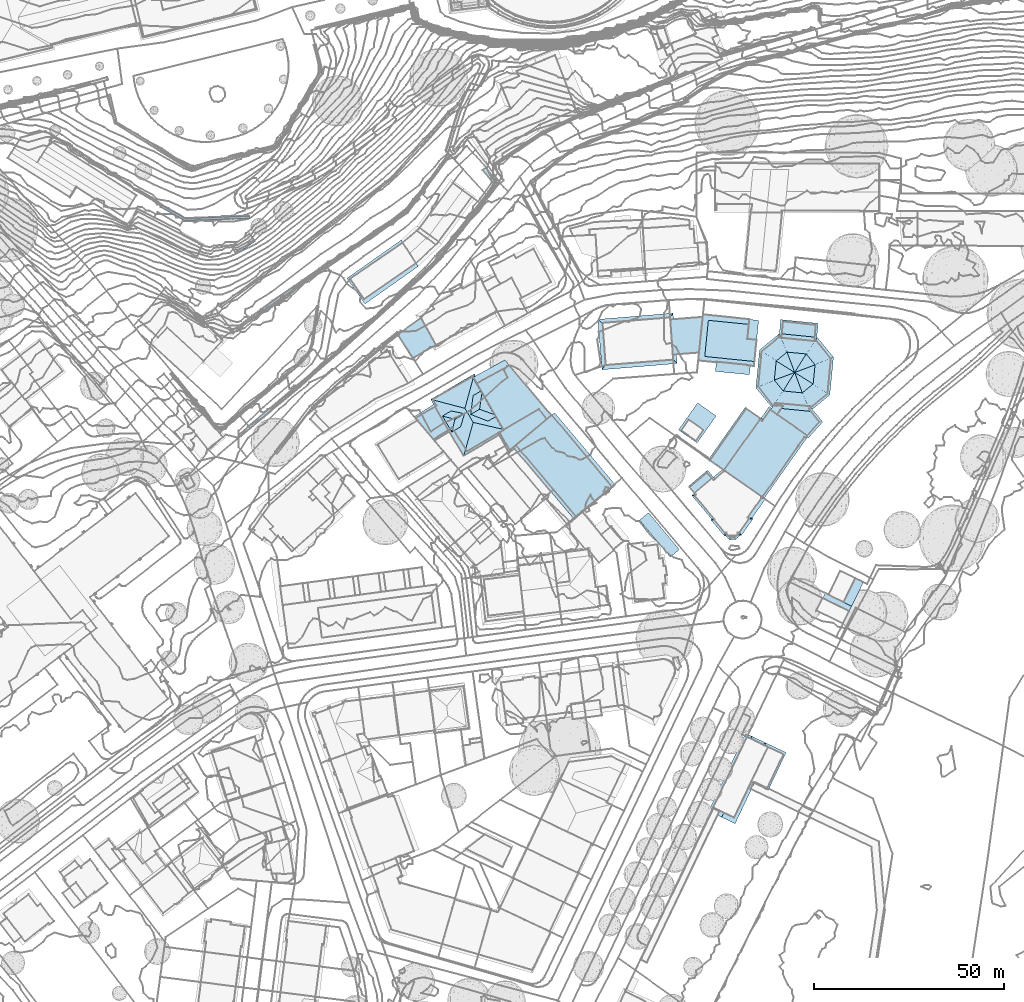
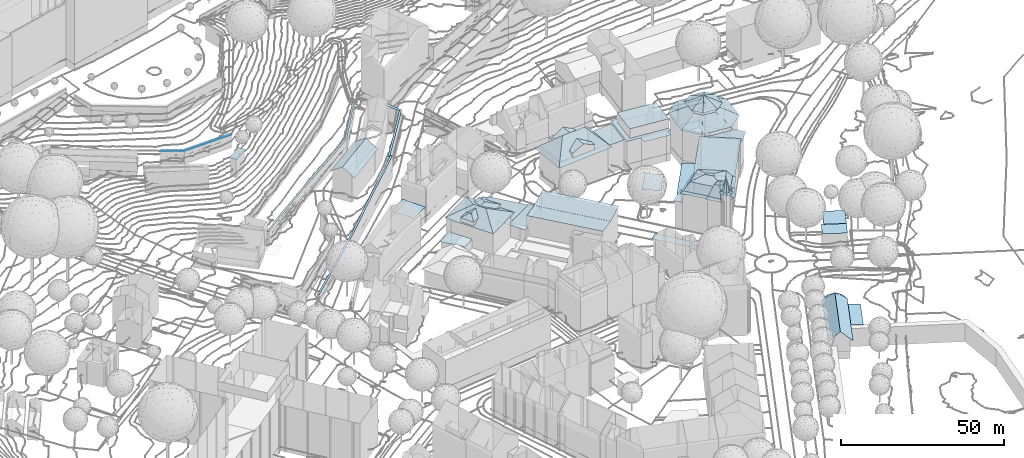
# Not in any storey, part 81 of 477: 30 roofs.
"""IFC4 building model written with IfcOpenShell, lengths in metres."""

import ifcopenshell
import ifcopenshell.guid

model = None  # the IFC model being written
_history = None  # IfcOwnerHistory: only IFC2X3 demands one
_inside = {}  # id of a spatial element -> (the spatial element, [elements in it])
_under = {}  # id of a project, library or spatial element -> (it, [spatial elements below it])
_declared = {}  # id of a project -> (the project, [libraries it declares])
_typed = {}  # id of a type object -> (the type object, [elements of that type])
_made_of = {}  # id of a material, layer set ... -> (it, [elements and type objects made of it])


def new_model(schema):
    """Start an empty IFC model of exactly this schema.

    Asked for "IFC4X3", IfcOpenShell would pick the latest addendum, in which some entities
    have other attributes; the version numbers below select the first issue.
    IFC2X3 requires an IfcOwnerHistory on every rooted entity: one is made here for all.
    """
    global model, _history
    if schema == "IFC4X3":
        model = ifcopenshell.file(schema_version=(4, 3, 0, 0))
    else:
        model = ifcopenshell.file(schema=schema)
    _inside.clear()
    _under.clear()
    _declared.clear()
    _typed.clear()
    _made_of.clear()
    _history = None
    if model.schema == "IFC2X3":
        org = make("IfcOrganization", Name="unknown")
        user = make(
            "IfcPersonAndOrganization",
            ThePerson=make("IfcPerson", FamilyName="unknown"),
            TheOrganization=org,
        )
        app = make(
            "IfcApplication",
            ApplicationDeveloper=org,
            Version="unknown",
            ApplicationFullName="unknown",
            ApplicationIdentifier="unknown",
        )
        _history = make(
            "IfcOwnerHistory",
            OwningUser=user,
            OwningApplication=app,
            ChangeAction="ADDED",
            CreationDate=0,
        )
    return model


def make(cls, **values):
    """One entity of the class cls with the attributes given. An attribute that is None is left unset."""
    return model.create_entity(
        cls, **{name: value for name, value in values.items() if value is not None}
    )


def rooted(cls, **values):
    """An entity with a GlobalId (a new one), such as an element, a storey or a relation."""
    return make(cls, GlobalId=ifcopenshell.guid.new(), OwnerHistory=_history, **values)


def si_unit(unit_type, name, prefix=None):
    """IfcSIUnit, for example si_unit("LENGTHUNIT", "METRE", prefix="MILLI")."""
    return make("IfcSIUnit", UnitType=unit_type, Prefix=prefix, Name=name)


def assignment(units):
    """IfcUnitAssignment: the units of a project."""
    return None if units is None else make("IfcUnitAssignment", Units=units)


def point(xyz):
    """IfcCartesianPoint."""
    return None if xyz is None else make("IfcCartesianPoint", Coordinates=xyz)


def direction(xyz):
    """IfcDirection."""
    return None if xyz is None else make("IfcDirection", DirectionRatios=xyz)


def frame(location, z_axis=None, x_axis=None):
    """IfcAxis2Placement3D, a coordinate frame: its origin and axes. An axis left out is left unset."""
    return make(
        "IfcAxis2Placement3D",
        Location=point(location),
        Axis=direction(z_axis),
        RefDirection=direction(x_axis),
    )


def origin_with_axes():
    """The frame at (0, 0, 0) with the z axis (0, 0, 1) and the x axis (1, 0, 0) written out."""
    return frame((0.0, 0.0, 0.0), z_axis=(0.0, 0.0, 1.0), x_axis=(1.0, 0.0, 0.0))


def place(relative_to, where):
    """IfcLocalPlacement: puts the frame where relative to a parent placement (None: the world)."""
    return make(
        "IfcLocalPlacement", PlacementRelTo=relative_to, RelativePlacement=where
    )


def context(
    kind, dimensions, precision=None, world=None, true_north=None, identifier=None
):
    """IfcGeometricRepresentationContext, for example the 3D "Model" context."""
    return make(
        "IfcGeometricRepresentationContext",
        ContextIdentifier=identifier,
        ContextType=kind,
        CoordinateSpaceDimension=dimensions,
        Precision=precision,
        WorldCoordinateSystem=world,
        TrueNorth=true_north,
    )


def subcontext(parent, identifier, kind, view, scale=None):
    """IfcGeometricRepresentationSubContext, for example "Body" below "Model"."""
    return make(
        "IfcGeometricRepresentationSubContext",
        ContextIdentifier=identifier,
        ContextType=kind,
        ParentContext=parent,
        TargetScale=scale,
        TargetView=view,
    )


def project(units=None, contexts=None):
    """IfcProject with its units and contexts."""
    return rooted(
        "IfcProject",
        Name="project",
        RepresentationContexts=contexts,
        UnitsInContext=assignment(units),
    )


def spatial(cls, under=None, at=None, **own):
    """A site, building, storey or space (cls), placed at a placement, below another one or the project."""
    s = rooted(cls, ObjectPlacement=at, **own)
    if under is not None:
        _under.setdefault(under.id(), (under, []))[1].append(s)
    return s


def point_list(points):
    """IfcCartesianPointList2D or 3D."""
    cls = (
        "IfcCartesianPointList2D" if len(points[0]) == 2 else "IfcCartesianPointList3D"
    )
    return make(cls, CoordList=points)


def polygons(points, faces, closed=None, point_numbers=None):
    """IfcPolygonalFaceSet: a face is its outer loop, then its inner loops; points numbered from 1."""
    made = []
    for loops in faces:
        if len(loops) == 1:
            made.append(make("IfcIndexedPolygonalFace", CoordIndex=loops[0]))
        else:
            made.append(
                make(
                    "IfcIndexedPolygonalFaceWithVoids",
                    CoordIndex=loops[0],
                    InnerCoordIndices=loops[1:],
                )
            )
    return make(
        "IfcPolygonalFaceSet",
        Coordinates=point_list(points),
        Closed=closed,
        Faces=made,
        PnIndex=point_numbers,
    )


def shape(context_of_items, identifier, shape_type, items):
    """IfcShapeRepresentation: the items that make up one representation, for example the "Body"."""
    return make(
        "IfcShapeRepresentation",
        ContextOfItems=context_of_items,
        RepresentationIdentifier=identifier,
        RepresentationType=shape_type,
        Items=items,
    )


def made_of(thing, what):
    """Note that an element or type object is made of a material, layer set ...; save() writes the relation."""
    if what is not None:
        _made_of.setdefault(what.id(), (what, []))[1].append(thing)
    return thing


def element(
    cls,
    number,
    at=None,
    inside=None,
    cuts=None,
    type_object=None,
    material=None,
    context=None,
    identifier="Body",
    shape_type=None,
    held_by="IfcProductDefinitionShape",
    body=None,
    shapes=None,
    **own,
):
    """One element of the class cls, such as IfcWall. Its Tag is "e" and its number.

    at: its placement. inside: the storey or other place that contains it. cuts: it is an
    opening in that element (IfcRelVoidsElement). A single representation is given by context,
    identifier, shape_type and body (its items); several are given by shapes. held_by: the class
    of the entity that holds the representations. save() writes the other relations.
    """
    e = rooted(cls, Tag="e%d" % number, ObjectPlacement=at, **own)
    if body is not None:
        shapes = [shape(context, identifier, shape_type, body)]
    if shapes is not None:
        e.Representation = make(held_by, Representations=shapes)
    if inside is not None:
        _inside.setdefault(inside.id(), (inside, []))[1].append(e)
    if cuts is not None:
        rooted(
            "IfcRelVoidsElement", RelatingBuildingElement=cuts, RelatedOpeningElement=e
        )
    if type_object is not None:
        _typed.setdefault(type_object.id(), (type_object, []))[1].append(e)
    return made_of(e, material)


def aggregate(whole, parts):
    """IfcRelAggregates: a whole, such as a stair, and the parts it consists of."""
    return rooted("IfcRelAggregates", RelatingObject=whole, RelatedObjects=parts)


def save(model, path):
    """Write the relations noted so far, then the file.

    IfcRelAggregates (storeys below a building ...), IfcRelContainedInSpatialStructure (elements
    in a storey), IfcRelDefinesByType, IfcRelAssociatesMaterial and IfcRelDeclares: one each for
    every whole, place, type object, material and project.
    """
    for whole, parts in _under.values():
        aggregate(whole, parts)
    for where, things in _inside.values():
        rooted(
            "IfcRelContainedInSpatialStructure",
            RelatedElements=things,
            RelatingStructure=where,
        )
    for kind, things in _typed.values():
        rooted("IfcRelDefinesByType", RelatedObjects=things, RelatingType=kind)
    for what, things in _made_of.values():
        rooted("IfcRelAssociatesMaterial", RelatedObjects=things, RelatingMaterial=what)
    for by, libraries in _declared.values():
        rooted("IfcRelDeclares", RelatingContext=by, RelatedDefinitions=libraries)
    model.write(path)


model = new_model("IFC4")

# Units and contexts
model_context = context("Model", 3, precision=1e-05, world=origin_with_axes())
body_context = subcontext(model_context, "Body", "Model", "MODEL_VIEW")
ifc_project = project(units=[si_unit("AREAUNIT", "SQUARE_METRE"), si_unit("LENGTHUNIT", "METRE")], contexts=[model_context])

# Sites, building
site_1_placement = place(None, origin_with_axes())
site_1 = spatial("IfcSite", under=ifc_project, at=site_1_placement, Name="Topoexport Site")
site_2_placement = place(site_1_placement, origin_with_axes())
site_2 = spatial("IfcSite", under=site_1, at=site_2_placement, Name="TPX_BUILDINGS")
building_1_placement = place(site_2_placement, frame((211.8297320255, 101.9383160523, 526.7541), z_axis=(0.0, 0.0, 1.0), x_axis=(1.0, 0.0, 0.0)))
building_1 = spatial("IfcBuilding", under=site_2, at=building_1_placement, Name="Building 18", CompositionType="ELEMENT")

# Roofs
roof_1_placement = place(None, frame((211.8297320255, 101.9383160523, 526.7541), z_axis=(0.0, 0.0, 1.0), x_axis=(1.0, 0.0, 0.0)))
element("IfcRoof", 1, at=roof_1_placement, inside=building_1, Name="Roof 68", context=body_context, shape_type="Tessellation", body=[
    polygons([(226.2320000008, 193.1942999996, 5.6565), (243.0140000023, 193.7958999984, 5.4645), (226.0840000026, 192.5819999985, 5.6565), (219.6790000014, 196.1660000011, 5.6565), (219.9750000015, 196.6953000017, 5.6565), (243.0360000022, 193.1904000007, 5.4645)], [[[3, 2, 1]], [[5, 4, 1]], [[3, 1, 4]], [[2, 3, 6]]]),
])
roof_2_placement = place(None, frame((211.8297320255, 101.9383160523, 526.7541), z_axis=(0.0, 0.0, 1.0), x_axis=(1.0, 0.0, 0.0)))
element("IfcRoof", 2, at=roof_2_placement, inside=building_1, Name="Roof 70", context=body_context, shape_type="Tessellation", body=[
    polygons([(238.8200000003, 163.7226000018, -10.893), (246.1209999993, 169.2197000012, -10.9639), (238.7470000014, 162.8436999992, -10.893), (237.8509999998, 164.6094000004, -10.8929), (237.9189999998, 164.6748000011, -10.8929), (238.6140000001, 163.6044999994, -10.893), (238.2699999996, 163.3467000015, -10.893), (246.507000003, 168.6854999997, -10.9639), (261.4940000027, 179.8867000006, -11.2489), (261.8630000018, 179.3418000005, -11.2489), (276.0890000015, 189.5351000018, -11.3909), (276.4550000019, 188.9882999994, -11.3909), (284.3350000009, 195.1387000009, -11.3909), (284.7970000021, 194.6561999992, -11.3909), (295.9990000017, 209.7382999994, -10.9639), (295.4700000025, 210.1308000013, -10.9639)], [[[3, 2, 1]], [[5, 4, 1]], [[6, 3, 1]], [[3, 6, 7]], [[6, 1, 4]], [[2, 3, 8]], [[10, 9, 2]], [[2, 8, 10]], [[12, 11, 10]], [[9, 10, 11]], [[11, 12, 13]], [[14, 13, 12]], [[14, 15, 13]], [[13, 15, 16]]]),
])
roof_3_placement = place(None, frame((211.8297320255, 101.9383160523, 526.7541), z_axis=(0.0, 0.0, 1.0), x_axis=(1.0, 0.0, 0.0)))
element("IfcRoof", 3, at=roof_3_placement, inside=building_1, Name="Roof 71", context=body_context, shape_type="Tessellation", body=[
    polygons([(293.6009999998, 183.6112999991, -14.0297), (292.7030000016, 183.5439000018, -14.0297), (299.9330000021, 191.4316000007, -13.8457), (299.4210000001, 191.8407999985, -13.8457), (293.1660000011, 183.120099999, -14.0297), (294.1209999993, 183.1347999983, -14.0297), (287.8159999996, 177.9228000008, -14.2137), (277.4560000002, 167.5439000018, -14.7666), (277.0140000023, 168.0282999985, -14.7666), (288.2660000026, 177.4453000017, -14.2137), (266.8460000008, 157.8671999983, -16.1475), (266.4130000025, 158.3603000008, -16.1475), (254.8990000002, 147.7490000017, -17.8053), (240.8580000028, 135.8594000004, -19.0262), (240.4620000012, 136.3828000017, -19.0232), (254.4750000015, 148.25, -17.8053), (308.4230000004, 202.2080000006, -13.5687), (307.4979999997, 202.1981999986, -13.5707), (304.5190000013, 205.878899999, -12.7038), (305.4220000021, 206.5194999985, -12.6478)], [[[3, 2, 1]], [[2, 3, 4]], [[7, 6, 5]], [[2, 5, 1]], [[6, 1, 5]], [[9, 8, 7]], [[10, 7, 8]], [[9, 11, 8]], [[6, 7, 10]], [[11, 9, 12]], [[12, 13, 11]], [[15, 14, 13]], [[13, 16, 15]], [[13, 12, 16]], [[19, 18, 17]], [[19, 17, 20]], [[17, 4, 3]], [[4, 17, 18]]]),
])

# Building
building_2_placement = place(site_2_placement, frame((498.6247320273, 242.5555160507, 500.7935), z_axis=(0.0, 0.0, 1.0), x_axis=(1.0, 0.0, 0.0)))
building_2 = spatial("IfcBuilding", under=site_2, at=building_2_placement, Name="Building 78", CompositionType="ELEMENT")

# Roofs
roof_4_placement = place(None, frame((498.6247320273, 242.5555160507, 500.7935), z_axis=(0.0, 0.0, 1.0), x_axis=(1.0, 0.0, 0.0)))
element("IfcRoof", 4, at=roof_4_placement, inside=building_2, Name="Roof 1", context=body_context, shape_type="Tessellation", body=[
    polygons([(2.7259999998, -3.2177999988, 7.9962), (2.6270000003, -3.2792999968, 7.9962), (-0.4570000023, 0.3633000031, 7.9963), (5.1400000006, 2.942400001, 7.9962), (5.5850000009, 3.1972000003, 7.9962), (5.2029999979, 3.8652000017, 7.9962), (3.7190000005, -4.3896999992, 7.9962), (8.938000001, -3.5546999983, 7.9962), (4.9499999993, -6.0234999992, 7.9962), (3.618999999, -4.4521999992, 7.9962)], [[[3, 2, 1]], [[3, 1, 4]], [[6, 4, 5]], [[4, 6, 3]], [[1, 7, 4]], [[8, 4, 7]], [[7, 10, 9]], [[7, 9, 8]]]),
])
roof_5_placement = place(None, frame((498.6247320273, 242.5555160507, 500.7935), z_axis=(0.0, 0.0, 1.0), x_axis=(1.0, 0.0, 0.0)))
element("IfcRoof", 5, at=roof_5_placement, inside=building_2, Name="Roof 2", context=body_context, shape_type="Tessellation", body=[
    polygons([(16.8209999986, 2.3340000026, 15.6295), (19.0489999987, -0.7968999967, 14.1176), (14.4890000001, 0.9726000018, 15.6295), (20.9419999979, 0.8310000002, 14.2956), (21.4919999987, 0.6308000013, 14.1176), (21.1669999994, 0.4414000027, 14.1176), (17.4919999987, 6.8242000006, 14.2746), (17.5689999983, 7.3427000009, 14.1177), (17.2879999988, 7.1787, 14.1177), (15.1259999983, 5.9150000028, 14.1177), (23.1449999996, -2.9941999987, 12.9128), (12.6730000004, -9.9433999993, 12.5368), (15.1389999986, -1.1298999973, 15.8775), (24.1589999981, -3.2294999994, 12.5368), (22.0170000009, -4.4814999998, 12.5368), (21.1669999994, 0.4414000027, 12.8998), (17.2879999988, 7.1787, 12.8748), (19.3969999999, -0.5937999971, 13.9177), (15.2199999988, 10.7695000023, 12.8608), (15.4609999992, 11.6513000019, 12.5368), (15.4739999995, 6.1181000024, 13.9177), (12.9780000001, 2.567400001, 15.8775), (5.1400000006, 2.942400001, 12.5368), (3.9739999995, 4.9375, 12.5368), (4.699000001, 4.746100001, 12.8058), (9.5240000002, -3.6611999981, 12.7668), (7.0659999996, 0.5429000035, 12.7668), (9.362999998, 1.8847000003, 14.1177), (9.0229999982, 1.6875, 13.9177), (11.4809999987, -2.5165999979, 13.9177), (11.8209999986, -2.3183999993, 14.1176), (12.8779999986, 1.1465000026, 15.4695), (10.3519999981, -0.3310999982, 15.4695), (9.5240000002, -3.6611999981, 14.1176), (7.0659999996, 0.5429000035, 14.1177), (16.9589999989, 6.9853000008, 14.1007)], [[[3, 2, 1]], [[1, 2, 4]], [[6, 5, 4]], [[6, 4, 2]], [[4, 5, 7]], [[7, 1, 4]], [[8, 7, 5]], [[8, 9, 7]], [[7, 9, 10]], [[10, 3, 1]], [[10, 1, 7]], [[13, 12, 11]], [[15, 14, 11]], [[15, 11, 12]], [[14, 16, 11]], [[16, 14, 17]], [[11, 16, 18]], [[13, 2, 3]], [[18, 2, 11]], [[2, 13, 11]], [[17, 20, 19]], [[20, 17, 14]], [[17, 19, 21]], [[3, 22, 13]], [[22, 3, 10]], [[10, 21, 19]], [[22, 10, 19]], [[25, 24, 23]], [[27, 23, 26]], [[25, 23, 27]], [[25, 29, 28]], [[29, 25, 27]], [[25, 28, 22]], [[26, 12, 30]], [[12, 26, 23]], [[30, 12, 31]], [[22, 32, 13]], [[28, 32, 22]], [[31, 13, 32]], [[13, 31, 12]], [[19, 20, 25]], [[19, 25, 22]], [[25, 20, 24]], [[35, 34, 33]], [[32, 28, 33]], [[35, 33, 28]], [[33, 34, 31]], [[31, 32, 33]], [[10, 9, 36]]]),
])

# Building
building_3_placement = place(site_2_placement, frame((512.3577320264, 229.5457160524, 499.1847), z_axis=(0.0, 0.0, 1.0), x_axis=(1.0, 0.0, 0.0)))
building_3 = spatial("IfcBuilding", under=site_2, at=building_3_placement, Name="Building 80", CompositionType="ELEMENT")

# Roofs
roof_6_placement = place(None, frame((512.3577320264, 229.5457160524, 499.1847), z_axis=(0.0, 0.0, 1.0), x_axis=(1.0, 0.0, 0.0)))
element("IfcRoof", 6, at=roof_6_placement, inside=building_3, Name="Roof 0", context=body_context, shape_type="Tessellation", body=[
    polygons([(2.4640000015, 21.6660000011, 9.0281), (1.2910000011, 23.7001999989, 9.0281), (2.4330000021, 22.1367000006, 9.0281), (2.6059999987, 21.7441000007, 9.0281), (9.762000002, 28.3154000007, 9.0281), (11.0240000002, 26.817400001, 9.0281)], [[[3, 2, 1]], [[3, 1, 4]], [[3, 6, 5]], [[3, 5, 2]]]),
])
roof_7_placement = place(None, frame((512.3577320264, 229.5457160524, 499.1847), z_axis=(0.0, 0.0, 1.0), x_axis=(1.0, 0.0, 0.0)))
element("IfcRoof", 7, at=roof_7_placement, inside=building_3, Name="Roof 2", context=body_context, shape_type="Tessellation", body=[
    polygons([(20.8209999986, 12.7314999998, 9.441), (18.7419999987, 15.3828000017, 9.441), (22.0300000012, 13.7490000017, 9.441), (11.0240000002, 26.817400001, 9.4411), (9.4670000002, 9.9199000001, 9.441), (2.25, 22.0370999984, 9.4411), (9.3399999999, 9.7393000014, 9.441), (9.5139999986, 9.8388999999, 9.441)], [[[3, 2, 1]], [[2, 3, 4]], [[6, 5, 2]], [[7, 5, 6]], [[5, 7, 8]], [[6, 2, 4]]]),
])
roof_8_placement = place(None, frame((512.3577320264, 229.5457160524, 499.1847), z_axis=(0.0, 0.0, 1.0), x_axis=(1.0, 0.0, 0.0)))
element("IfcRoof", 8, at=roof_8_placement, inside=building_3, Name="Roof 4", context=body_context, shape_type="Tessellation", body=[
    polygons([(12.0340000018, 5.3291000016, 10.8489), (10.9149999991, 3.8183999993, 10.8489), (9.8399999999, 5.6649999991, 10.8489), (7.9010000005, 8.9970999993, 10.8489), (9.4670000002, 9.9199000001, 10.8489), (12.3099999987, 5.0009999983, 10.8489), (18.7419999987, 15.3828000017, 10.8489), (20.8209999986, 12.7314000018, 10.8489)], [[[3, 2, 1]], [[5, 4, 3]], [[1, 2, 6]], [[8, 7, 3]], [[5, 3, 7]], [[3, 1, 8]]]),
])
roof_9_placement = place(None, frame((512.3577320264, 229.5457160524, 499.1847), z_axis=(0.0, 0.0, 1.0), x_axis=(1.0, 0.0, 0.0)))
element("IfcRoof", 9, at=roof_9_placement, inside=building_3, Name="Roof 6", context=body_context, shape_type="Tessellation", body=[
    polygons([(27.9970000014, -13.6240000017, 15.0424), (33.4770000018, -9.2558999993, 14.1765), (28.118999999, -13.7685000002, 15.0424), (12.0340000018, 5.3291000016, 15.0425), (17.3909999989, 9.8418000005, 14.1766), (22.0300000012, 13.7490000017, 15.0985), (38.9250000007, -4.6680000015, 15.2594), (22.8390000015, 14.4296999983, 15.2595)], [[[3, 2, 1]], [[1, 5, 4]], [[5, 1, 2]], [[2, 7, 6]], [[6, 5, 2]], [[6, 7, 8]]]),
])

# Building
building_4_placement = place(site_2_placement, frame((554.542732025, 209.2947160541, 500.1665), z_axis=(0.0, 0.0, 1.0), x_axis=(1.0, 0.0, 0.0)))
building_4 = spatial("IfcBuilding", under=site_2, at=building_4_placement, Name="Building 88", CompositionType="ELEMENT")

# Roof
roof_10_placement = place(None, frame((554.542732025, 209.2947160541, 500.1665), z_axis=(0.0, 0.0, 1.0), x_axis=(1.0, 0.0, 0.0)))
element("IfcRoof", 10, at=roof_10_placement, inside=building_4, Name="Roof 0", context=body_context, shape_type="Tessellation", body=[
    polygons([(13.4910000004, -1.3437000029, 5.3714), (2.9880000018, 6.4062999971, 5.3715), (5.3850000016, 8.4013999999, 5.3715), (11.0950000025, -3.3388000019, 5.3714)], [[[3, 2, 1]], [[4, 1, 2]]]),
])

# Building
building_5_placement = place(site_2_placement, frame((450.1807320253, 287.7430160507, 522.8345), z_axis=(0.0, 0.0, 1.0), x_axis=(1.0, 0.0, 0.0)))
building_5 = spatial("IfcBuilding", under=site_2, at=building_5_placement, Name="Building 103", CompositionType="ELEMENT")

# Roof
roof_11_placement = place(None, frame((450.1807320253, 287.7430160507, 522.8345), z_axis=(0.0, 0.0, 1.0), x_axis=(1.0, 0.0, 0.0)))
element("IfcRoof", 11, at=roof_11_placement, inside=building_5, Name="Roof 0", context=body_context, shape_type="Tessellation", body=[
    polygons([(6.3420000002, 1.3408000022, 6.9983), (1.0420000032, -2.111399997, 6.9983), (-0.3389999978, 0.1015000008, 6.9983), (4.8320000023, 3.6279000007, 6.9983)], [[[3, 2, 1]], [[1, 4, 3]]]),
])

# Building
building_6_placement = place(site_2_placement, frame((547.8737320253, 267.5604160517, 499.9486), z_axis=(0.0, 0.0, 1.0), x_axis=(1.0, 0.0, 0.0)))
building_6 = spatial("IfcBuilding", under=site_2, at=building_6_placement, Name="Building 109", CompositionType="ELEMENT")

# Roof
roof_12_placement = place(None, frame((547.8737320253, 267.5604160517, 499.9486), z_axis=(0.0, 0.0, 1.0), x_axis=(1.0, 0.0, 0.0)))
element("IfcRoof", 12, at=roof_12_placement, inside=building_6, Name="Roof 0", context=body_context, shape_type="Tessellation", body=[
    polygons([(17.5899999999, 1.4081999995, 12.4408), (12.7660000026, 1.0223999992, 12.4288), (18.4840000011, 2.6181000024, 11.4089), (4.6460000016, 0.3720000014, 12.4078), (12.8570000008, -0.0762000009, 13.4337), (13.2240000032, -4.5040000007, 17.4843), (12.875, -0.2958999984, 13.6337), (9.018000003, -3.0713, 15.8684), (0.0219999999, -0.2939999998, 12.6648), (-1.3029999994, 0.9794000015, 11.4089), (4.7390000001, -0.7490999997, 13.4337), (5.1050000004, -5.1757999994, 17.4843), (4.757000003, -0.9668000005, 13.6337), (5.6410000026, -11.8027999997, 11.4089), (-0.2049999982, -12.2872000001, 11.4089), (0.8170000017, -10.9189999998, 12.5778), (7.7330000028, -11.629900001, 11.4089), (5.564000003, -10.7168000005, 12.4038), (5.4130000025, -8.8867999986, 14.0816), (5.4310000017, -9.1044999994, 13.8816), (9.3100000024, -6.6015999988, 15.8684), (13.6840000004, -10.0665000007, 12.3838), (19.5830000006, -10.6484999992, 11.4089), (18.575000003, -9.6748999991, 12.3718), (13.5480000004, -8.4327000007, 13.8816), (13.5300000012, -8.2148999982, 14.0816), (13.6840000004, -10.0665000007, 14.0816), (9.6240000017, -10.3916999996, 15.8684), (5.564000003, -10.7168000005, 14.0816), (12.7660000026, 1.0223999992, 13.6337), (8.7060000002, 0.6972000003, 15.8685), (4.6460000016, 0.3720000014, 13.6337)], [[[3, 2, 1]], [[2, 3, 4]], [[1, 2, 5]], [[1, 7, 6]], [[7, 1, 5]], [[6, 7, 8]], [[4, 10, 9]], [[10, 4, 3]], [[4, 9, 11]], [[8, 13, 12]], [[9, 13, 11]], [[13, 9, 12]], [[8, 12, 6]], [[16, 15, 14]], [[18, 14, 17]], [[16, 14, 18]], [[12, 16, 19]], [[20, 19, 16]], [[16, 18, 20]], [[12, 19, 21]], [[17, 22, 18]], [[22, 17, 23]], [[23, 24, 22]], [[22, 24, 25]], [[21, 26, 6]], [[24, 26, 25]], [[26, 24, 6]], [[21, 6, 12]], [[27, 26, 21]], [[21, 28, 27]], [[28, 21, 19]], [[19, 29, 28]], [[31, 8, 30]], [[7, 30, 8]], [[32, 13, 8]], [[8, 31, 32]], [[24, 23, 3]], [[24, 1, 6]], [[1, 24, 3]], [[9, 10, 16]], [[9, 16, 12]], [[16, 10, 15]]]),
])

# Building
building_7_placement = place(site_2_placement, frame((481.4457320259, 279.2078160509, 509.1578), z_axis=(0.0, 0.0, 1.0), x_axis=(1.0, 0.0, 0.0)))
building_7 = spatial("IfcBuilding", under=site_2, at=building_7_placement, Name="Building 111", CompositionType="ELEMENT")

# Roof
roof_13_placement = place(None, frame((481.4457320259, 279.2078160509, 509.1578), z_axis=(0.0, 0.0, 1.0), x_axis=(1.0, 0.0, 0.0)))
element("IfcRoof", 13, at=roof_13_placement, inside=building_7, Name="Roof 0", context=body_context, shape_type="Tessellation", body=[
    polygons([(1.4959999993, -3.2811999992, 12.6728), (15.6600000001, 6.7061000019, 12.6728), (17.8780000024, 3.2656000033, 9.819), (3.8530000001, -6.6229999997, 9.819), (-0.9079999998, 0.1289000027, 9.957), (13.3969999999, 10.2158000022, 9.957)], [[[3, 2, 1]], [[1, 4, 3]], [[2, 6, 5]], [[5, 1, 2]]]),
])

# Building
building_8_placement = place(site_2_placement, frame((494.0337320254, 264.5447160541, 502.2364), z_axis=(0.0, 0.0, 1.0), x_axis=(1.0, 0.0, 0.0)))
building_8 = spatial("IfcBuilding", under=site_2, at=building_8_placement, Name="Building 115", CompositionType="ELEMENT")

# Roof
roof_14_placement = place(None, frame((494.0337320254, 264.5447160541, 502.2364), z_axis=(0.0, 0.0, 1.0), x_axis=(1.0, 0.0, 0.0)))
element("IfcRoof", 14, at=roof_14_placement, inside=building_8, Name="Roof 0", context=body_context, shape_type="Tessellation", body=[
    polygons([(0.0, 0.0, 6.0464), (4.3949999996, -6.0722000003, 6.0464), (3.9730000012, -6.3047000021, 6.0464), (6.0700000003, 4.3662, 6.0464), (10.0910000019, -2.9248000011, 6.0464)], [[[3, 2, 1]], [[4, 1, 2]], [[4, 2, 5]]]),
])

# Building
building_9_placement = place(site_2_placement, frame((576.9417320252, 139.999816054, 499.5324), z_axis=(0.0, 0.0, 1.0), x_axis=(1.0, 0.0, 0.0)))
building_9 = spatial("IfcBuilding", under=site_2, at=building_9_placement, Name="Building 168", CompositionType="ELEMENT")

# Roof
roof_15_placement = place(None, frame((576.9417320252, 139.999816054, 499.5324), z_axis=(0.0, 0.0, 1.0), x_axis=(1.0, 0.0, 0.0)))
element("IfcRoof", 15, at=roof_15_placement, inside=building_9, Name="Roof 0", context=body_context, shape_type="Tessellation", body=[
    polygons([(13.5360000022, 16.3935999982, 9.1651), (11.2259999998, 16.5067999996, 11.095), (12.7589999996, 16.7655999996, 10.0681), (14.0450000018, 16.9843999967, 9.2061), (15.4900000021, 16.2987999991, 7.5313), (2.762000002, -1.3232000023, 11.0949), (5.7690000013, -4.1807000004, 7.5313), (9.7280000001, 18.2187999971, 9.1312), (8.507000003, 19.6142999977, 7.5313), (-1.2149999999, -0.8662, 7.5313), (2.2070000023, -2.4912, 11.0949), (10.4890000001, 17.8534999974, 10.0571), (9.8850000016, 18.9589999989, 9.2061)], [[[3, 2, 1]], [[5, 4, 3]], [[5, 3, 1]], [[6, 1, 2]], [[7, 1, 6]], [[7, 5, 1]], [[8, 6, 2]], [[10, 8, 9]], [[6, 10, 11]], [[10, 6, 8]], [[7, 6, 11]], [[3, 4, 12]], [[3, 12, 2]], [[12, 4, 13]], [[13, 9, 12]], [[8, 2, 12]], [[8, 12, 9]]]),
])

# Building
building_10_placement = place(site_2_placement, frame((586.985732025, 146.8299160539, 499.5454), z_axis=(0.0, 0.0, 1.0), x_axis=(1.0, 0.0, 0.0)))
building_10 = spatial("IfcBuilding", under=site_2, at=building_10_placement, Name="Building 169", CompositionType="ELEMENT")

# Roof
roof_16_placement = place(None, frame((586.985732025, 146.8299160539, 499.5454), z_axis=(0.0, 0.0, 1.0), x_axis=(1.0, 0.0, 0.0)))
element("IfcRoof", 16, at=roof_16_placement, inside=building_10, Name="Roof 0", context=body_context, shape_type="Tessellation", body=[
    polygons([(4.3710000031, 9.1425999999, 5.5845), (3.512000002, 9.5546999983, 5.6745), (3.8350000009, 10.235299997, 5.6745), (9.1340000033, 7.7206999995, 5.1235), (-0.049999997, -0.1074000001, 5.5875), (4.4140000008, -2.2256000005, 5.1235)], [[[3, 2, 1]], [[3, 1, 4]], [[4, 1, 5]], [[6, 4, 5]]]),
])

# Building
building_11_placement = place(site_2_placement, frame((604.1217320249, 191.883616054, 499.7615), z_axis=(0.0, 0.0, 1.0), x_axis=(1.0, 0.0, 0.0)))
building_11 = spatial("IfcBuilding", under=site_2, at=building_11_placement, Name="Building 171", CompositionType="ELEMENT")

# Roof
roof_17_placement = place(None, frame((604.1217320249, 191.883616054, 499.7615), z_axis=(0.0, 0.0, 1.0), x_axis=(1.0, 0.0, 0.0)))
element("IfcRoof", 17, at=roof_17_placement, inside=building_11, Name="Roof 0", context=body_context, shape_type="Tessellation", body=[
    polygons([(8.5789999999, -0.1904000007, 5.7325), (6.9760000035, -3.4414000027, 5.7325), (0.0, 0.0, 5.7324), (9.2370000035, 1.1444999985, 5.7325), (1.5960000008, 3.253899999, 5.7314), (2.2520000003, 4.5907999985, 5.7315)], [[[3, 2, 1]], [[5, 1, 4]], [[1, 5, 3]], [[5, 4, 6]]]),
])

# Building
building_12_placement = place(site_2_placement, frame((607.3027320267, 196.0164160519, 499.6766), z_axis=(0.0, 0.0, 1.0), x_axis=(1.0, 0.0, 0.0)))
building_12 = spatial("IfcBuilding", under=site_2, at=building_12_placement, Name="Building 172", CompositionType="ELEMENT")

# Roof
roof_18_placement = place(None, frame((607.3027320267, 196.0164160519, 499.6766), z_axis=(0.0, 0.0, 1.0), x_axis=(1.0, 0.0, 0.0)))
element("IfcRoof", 18, at=roof_18_placement, inside=building_12, Name="Roof 0", context=body_context, shape_type="Tessellation", body=[
    polygons([(7.0560000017, 4.3603999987, 5.8164), (6.0560000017, -2.9882999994, 5.8174), (3.9450000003, -1.9463, 5.8174), (2.9560000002, 6.3672000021, 5.8164), (0.0, 0.0, 5.8164), (-0.1590000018, 0.0780999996, 5.8164), (3.1039999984, 6.2949000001, 5.8164), (9.1689999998, 3.3251999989, 5.8164)], [[[3, 2, 1]], [[6, 5, 4]], [[3, 7, 5]], [[7, 3, 1]], [[4, 5, 7]], [[1, 2, 8]]]),
])

# Building
building_13_placement = place(site_2_placement, frame((573.0317320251, 257.6658160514, 499.7226), z_axis=(0.0, 0.0, 1.0), x_axis=(1.0, 0.0, 0.0)))
building_13 = spatial("IfcBuilding", under=site_2, at=building_13_placement, Name="Building 175", CompositionType="ELEMENT")

# Roofs
roof_19_placement = place(None, frame((573.0317320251, 257.6658160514, 499.7226), z_axis=(0.0, 0.0, 1.0), x_axis=(1.0, 0.0, 0.0)))
element("IfcRoof", 19, at=roof_19_placement, inside=building_13, Name="Roof 0", context=body_context, shape_type="Tessellation", body=[
    polygons([(12.9260000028, 5.6963, 11.3249), (13.3090000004, 9.5439999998, 11.3249), (15.3509999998, 5.4209000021, 11.3249), (15.8730000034, 10.6143000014, 11.3249), (13.7030000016, -1.4032999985, 11.3249), (13.4200000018, -3.6884999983, 11.3249), (4.7360000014, -0.4853000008, 11.3249), (14.7850000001, -0.2137999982, 11.3249), (14.6550000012, -1.5, 11.3249), (2.6390000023, 10.6172000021, 11.3249), (0.0, 0.0, 11.3249), (1.2609999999, 12.1338, 11.3249), (4.449000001, -2.816399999, 11.3249), (1.6830000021, 1.1026000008, 11.3249)], [[[3, 2, 1]], [[2, 3, 4]], [[7, 6, 5]], [[9, 8, 5]], [[8, 7, 5]], [[2, 4, 10]], [[10, 12, 11]], [[12, 10, 4]], [[13, 6, 7]], [[7, 14, 11]], [[11, 14, 10]], [[8, 14, 7]]]),
])
roof_20_placement = place(None, frame((573.0317320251, 257.6658160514, 499.7226), z_axis=(0.0, 0.0, 1.0), x_axis=(1.0, 0.0, 0.0)))
element("IfcRoof", 20, at=roof_20_placement, inside=building_13, Name="Roof 1", context=body_context, shape_type="Tessellation", body=[
    polygons([(14.7850000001, -0.2137999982, 14.7665), (2.6390000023, 10.6172000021, 14.7666), (13.3090000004, 9.5439999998, 14.7665), (1.6830000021, 1.1026000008, 14.7665), (15.7410000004, 9.2998000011, 14.7665)], [[[3, 2, 1]], [[1, 2, 4]], [[1, 5, 3]]]),
])

# Building
building_14_placement = place(site_2_placement, frame((565.6917320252, 268.4637160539, 499.7686), z_axis=(0.0, 0.0, 1.0), x_axis=(1.0, 0.0, 0.0)))
building_14 = spatial("IfcBuilding", under=site_2, at=building_14_placement, Name="Building 176", CompositionType="ELEMENT")

# Roof
roof_21_placement = place(None, frame((565.6917320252, 268.4637160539, 499.7686), z_axis=(0.0, 0.0, 1.0), x_axis=(1.0, 0.0, 0.0)))
element("IfcRoof", 21, at=roof_21_placement, inside=building_14, Name="Roof 0", context=body_context, shape_type="Tessellation", body=[
    polygons([(0.5850000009, -8.0938000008, 10.59), (7.557, -8.7110000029, 10.5899), (0.6770000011, -9.25, 10.59), (0.6680000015, -9.251000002, 10.59), (0.3520000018, -4.871100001, 10.589), (8.5320000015, 0.672799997, 10.587), (0.0, 0.0, 10.587), (2.3910000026, -9.1161000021, 10.5399), (0.501000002, -6.9317000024, 10.438), (0.4570000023, -6.2490000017, 10.389), (0.3350000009, -4.625, 10.412), (0.2540000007, -3.4688000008, 10.388), (0.6770000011, -9.25, 10.39)], [[[3, 2, 1]], [[4, 3, 1]], [[5, 1, 2]], [[5, 2, 6]], [[7, 5, 6]], [[8, 3, 4]], [[11, 10, 9]], [[10, 11, 12]], [[10, 13, 9]]]),
])

# Building
building_15_placement = place(site_2_placement, frame((568.5307320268, 239.2557160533, 500.0015), z_axis=(0.0, 0.0, 1.0), x_axis=(1.0, 0.0, 0.0)))
building_15 = spatial("IfcBuilding", under=site_2, at=building_15_placement, Name="Building 177", CompositionType="ELEMENT")

# Roof
roof_22_placement = place(None, frame((568.5307320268, 239.2557160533, 500.0015), z_axis=(0.0, 0.0, 1.0), x_axis=(1.0, 0.0, 0.0)))
element("IfcRoof", 22, at=roof_22_placement, inside=building_15, Name="Roof 0", context=body_context, shape_type="Tessellation", body=[
    polygons([(4.1499999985, -3.2608000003, 5.9304), (4.3200000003, 7.311499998, 5.9305), (9.1959999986, 3.8515000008, 5.9304), (-0.7259999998, 0.1981999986, 5.9305)], [[[3, 2, 1]], [[4, 1, 2]]]),
])

# Building
building_16_placement = place(site_2_placement, frame((576.0807320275, 231.3953160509, 499.9275), z_axis=(0.0, 0.0, 1.0), x_axis=(1.0, 0.0, 0.0)))
building_16 = spatial("IfcBuilding", under=site_2, at=building_16_placement, Name="Building 178", CompositionType="ELEMENT")

# Roofs
roof_23_placement = place(None, frame((576.0807320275, 231.3953160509, 499.9275), z_axis=(0.0, 0.0, 1.0), x_axis=(1.0, 0.0, 0.0)))
element("IfcRoof", 23, at=roof_23_placement, inside=building_16, Name="Roof 0", context=body_context, shape_type="Tessellation", body=[
    polygons([(3.7049999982, -2.6054999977, 6.2374), (3.8029999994, -2.6747999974, 6.2374), (3.7589999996, -2.7412, 6.2374), (13.1719999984, 10.7763999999, 6.2374), (-0.432, 0.2090000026, 6.2374), (14.0469999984, 10.7490000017, 6.2374), (13.7670000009, 10.3545000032, 6.2374), (9.3279999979, 14.0713, 6.2374)], [[[3, 2, 1]], [[5, 1, 4]], [[1, 5, 3]], [[7, 6, 4]], [[4, 8, 5]], [[8, 4, 6]]]),
])
roof_24_placement = place(None, frame((576.0807320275, 231.3953160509, 499.9275), z_axis=(0.0, 0.0, 1.0), x_axis=(1.0, 0.0, 0.0)))
element("IfcRoof", 24, at=roof_24_placement, inside=building_16, Name="Roof 1", context=body_context, shape_type="Tessellation", body=[
    polygons([(15.5979999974, 14.2050999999, 13.8457), (13.8429999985, -9.7655999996, 13.8456), (3.7609999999, -2.7391999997, 13.8457), (3.2749999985, -3.2138999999, 13.8457), (3.2879999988, -3.2225999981, 13.8457), (3.6449999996, -2.9179999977, 13.8457), (13.7839999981, -10.6473999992, 13.8456), (26.1059999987, 6.7715000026, 13.8457), (13.6840000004, -9.990199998, 13.8456), (13.5610000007, -9.9032999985, 13.8457), (13.2850000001, -10.2949000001, 13.8456)], [[[3, 2, 1]], [[3, 1, 4]], [[6, 3, 5]], [[8, 2, 7]], [[8, 1, 2]], [[7, 2, 9]], [[5, 3, 4]], [[11, 9, 10]], [[7, 9, 11]]]),
])

# Building
building_17_placement = place(site_2_placement, frame((588.8407320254, 250.8973160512, 499.7896), z_axis=(0.0, 0.0, 1.0), x_axis=(1.0, 0.0, 0.0)))
building_17 = spatial("IfcBuilding", under=site_2, at=building_17_placement, Name="Building 179", CompositionType="ELEMENT")

# Roofs
roof_25_placement = place(None, frame((588.8407320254, 250.8973160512, 499.7896), z_axis=(0.0, 0.0, 1.0), x_axis=(1.0, 0.0, 0.0)))
element("IfcRoof", 25, at=roof_25_placement, inside=building_17, Name="Roof 0", context=body_context, shape_type="Tessellation", body=[
    polygons([(3.882000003, -5.0859999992, 13.3106), (4.7740000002, -5.182599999, 13.3106), (3.1099999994, -6.1767999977, 13.3106), (6.0769999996, -5.8183999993, 13.3106), (4.8350000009, -4.9814999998, 13.3106), (6.4990000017, -5.1972999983, 13.3106), (13.5470000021, -6.5615999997, 13.3106), (12.8790000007, -12.995099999, 13.3106), (13.132000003, -13.5527999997, 13.3106), (12.6689999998, -13.2333999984, 13.3106), (16.9330000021, -9.3632999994, 13.3106), (13.8210000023, -5.5605999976, 13.3106), (13.7360000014, -6.4062999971, 13.3106), (13.3599999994, -5.9365999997, 13.3106)], [[[3, 2, 1]], [[2, 3, 4]], [[6, 5, 4]], [[8, 7, 4]], [[5, 2, 4]], [[10, 9, 8]], [[8, 9, 11]], [[14, 13, 12]], [[13, 11, 12]], [[11, 13, 7]], [[7, 8, 11]], [[4, 3, 8]]]),
])
roof_26_placement = place(None, frame((588.8407320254, 250.8973160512, 499.7896), z_axis=(0.0, 0.0, 1.0), x_axis=(1.0, 0.0, 0.0)))
element("IfcRoof", 26, at=roof_26_placement, inside=building_17, Name="Roof 1", context=body_context, shape_type="Tessellation", body=[
    polygons([(5.870000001, 17.5810000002, 10.058), (6.2010000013, 13.826100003, 11.2529), (5.4030000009, 12.8808000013, 11.5818), (5.7809999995, 13.1894000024, 11.4708), (6.1400000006, 13.1533000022, 11.4708), (15.7300000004, 16.6025000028, 10.058), (14.8599999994, 12.9668000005, 11.2529), (15.2780000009, 12.0604999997, 11.5308), (15.120000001, 12.2578000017, 11.4718), (14.8020000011, 12.2890000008, 11.4718)], [[[3, 2, 1]], [[2, 3, 4]], [[2, 4, 5]], [[1, 2, 6]], [[9, 8, 7]], [[10, 9, 7]], [[7, 8, 6]], [[7, 6, 2]]]),
])
roof_27_placement = place(None, frame((588.8407320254, 250.8973160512, 499.7896), z_axis=(0.0, 0.0, 1.0), x_axis=(1.0, 0.0, 0.0)))
element("IfcRoof", 27, at=roof_27_placement, inside=building_17, Name="Roof 2", context=body_context, shape_type="Tessellation", body=[
    polygons([(4.1750000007, 1.6581999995, 18.8951), (9.5400000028, 3.6650000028, 21.6509), (6.5160000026, -1.1992999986, 18.8951), (4.6750000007, 6.6904000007, 18.8951), (11.5480000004, -1.6992000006, 18.8951), (14.4050000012, 0.6416000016, 18.8951), (14.9050000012, 5.6738000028, 18.8951), (7.5329999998, 9.0302000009, 18.8951), (12.5650000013, 8.5302000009, 18.8951)], [[[3, 2, 1]], [[2, 4, 1]], [[5, 2, 3]], [[2, 5, 6]], [[7, 2, 6]], [[4, 2, 8]], [[2, 9, 8]], [[9, 2, 7]]]),
])
roof_28_placement = place(None, frame((588.8407320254, 250.8973160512, 499.7896), z_axis=(0.0, 0.0, 1.0), x_axis=(1.0, 0.0, 0.0)))
element("IfcRoof", 28, at=roof_28_placement, inside=building_17, Name="Roof 3", context=body_context, shape_type="Tessellation", body=[
    polygons([(13.4150000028, 5.9140000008, 17.4063), (15.4810000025, 12.9043000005, 14.4895), (19.7670000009, 7.6728000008, 14.4896), (12.0540000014, 7.576100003, 17.4063), (13.8690000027, 5.3613000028, 17.4063), (18.7790000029, -2.2743999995, 14.4896), (13.4510000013, 1.1513000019, 17.4063), (13.1600000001, 0.9131000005, 17.4063), (13.5470000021, -6.5615999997, 14.4895), (11.2360000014, -0.6631000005, 17.4063), (11.5170000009, -0.432599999, 17.4063), (7.0270000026, -0.2441999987, 17.4063), (3.6000000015, -5.5722999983, 14.4895), (5.5340000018, 13.8925000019, 14.4896), (5.9480000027, 6.4404000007, 17.4063), (5.6300000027, 6.1797000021, 17.4063), (7.5659999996, 7.7655999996, 17.4063), (7.8450000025, 7.9931000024, 17.4063), (0.3020000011, 9.6064000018, 14.4896), (5.4539999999, 1.6757000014, 17.4073), (6.8000000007, 0.0322000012, 17.4063), (-0.686999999, -0.3409000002, 14.4895), (5.2120000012, 1.9706999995, 17.4063)], [[[3, 2, 1]], [[4, 1, 2]], [[3, 1, 5]], [[6, 3, 5]], [[5, 7, 6]], [[9, 7, 8]], [[11, 10, 9]], [[9, 6, 7]], [[9, 8, 11]], [[13, 9, 12]], [[10, 12, 9]], [[16, 15, 14]], [[17, 14, 15]], [[17, 18, 14]], [[14, 19, 16]], [[18, 4, 14]], [[2, 14, 4]], [[13, 21, 20]], [[12, 21, 13]], [[20, 23, 22]], [[22, 13, 20]], [[19, 22, 23]], [[23, 16, 19]]]),
])

# Building
building_18_placement = place(site_2_placement, frame((570.7887320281, 224.3660160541, 500.0575), z_axis=(0.0, 0.0, 1.0), x_axis=(1.0, 0.0, 0.0)))
building_18 = spatial("IfcBuilding", under=site_2, at=building_18_placement, Name="Building 180", CompositionType="ELEMENT")

# Roofs
roof_29_placement = place(None, frame((570.7887320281, 224.3660160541, 500.0575), z_axis=(0.0, 0.0, 1.0), x_axis=(1.0, 0.0, 0.0)))
element("IfcRoof", 29, at=roof_29_placement, inside=building_18, Name="Roof 0", context=body_context, shape_type="Tessellation", body=[
    polygons([(6.6339999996, 2.1415999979, 9.877), (5.8310000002, 2.3525999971, 9.877), (4.6539999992, 4.4853999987, 9.877), (-0.439000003, 0.1845999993, 9.877), (6.2729999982, 1.8329999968, 9.877), (1.5579999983, -2.1797000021, 9.877), (1.2609999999, -1.5058000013, 9.877), (1.7139999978, -2.0459000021, 9.877)], [[[3, 2, 1]], [[2, 3, 4]], [[5, 1, 2]], [[7, 4, 6]], [[4, 7, 2]], [[6, 8, 7]]]),
])
roof_30_placement = place(None, frame((570.7887320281, 224.3660160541, 500.0575), z_axis=(0.0, 0.0, 1.0), x_axis=(1.0, 0.0, 0.0)))
element("IfcRoof", 30, at=roof_30_placement, inside=building_18, Name="Roof 1", context=body_context, shape_type="Tessellation", body=[
    polygons([(16.487999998, -3.0547000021, 17.1193), (12.8279999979, -8.2832000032, 17.1193), (10.8129999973, -7.3027000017, 17.9722), (10.7219999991, -5.2031000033, 18.4652), (11.5629999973, -4.0019000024, 18.4652), (9.2179999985, 2.0116999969, 17.1193), (9.4549999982, -2.5332000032, 18.4652), (8.8779999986, -3.0205000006, 18.4652), (1.7069999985, -2.2529000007, 14.2746), (8.6939999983, 4.7704999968, 13.7237), (8.993999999, 3.9003999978, 14.2746), (0.481999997, -2.1640000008, 13.7237), (19.9210000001, -3.0537, 13.7236), (18.7099999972, -2.8701000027, 14.2746), (16.4089999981, -8.0722000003, 13.7236), (15.1589999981, -8.4140000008, 14.2746), (14.9399999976, -8.254900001, 14.2746), (16.6710000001, -8.2617000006, 13.7236), (10.8699999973, -8.6152000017, 18.8492), (11.6099999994, -10.0254000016, 18.0082), (10.2079999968, -10.0381000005, 18.0082), (12.6019999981, -8.6064000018, 18.0082), (13.5269999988, -12.7539000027, 13.7236), (12.8839999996, -11.6650000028, 14.2746), (9.7809999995, -12.4931000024, 13.8726), (9.3759999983, -11.6972000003, 14.2746), (9.7740000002, -11.6933000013, 14.2746), (9.0789999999, -12.7949000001, 13.7236), (10.0789999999, -12.7861000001, 13.7236), (5.5189999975, -8.5820000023, 13.7237), (6.7599999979, -8.6015000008, 14.2746), (8.9409999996, -8.5381000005, 18.0082), (3.8549999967, -2.5185000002, 17.1193), (8.7639999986, -8.3281000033, 17.1193), (6.9599999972, -8.4707000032, 14.2746), (5.7669999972, -8.4199000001, 13.7237), (12.6399999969, -11.6670000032, 14.2746), (12.6469999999, -12.4697000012, 13.8706), (12.356999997, -12.7656000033, 13.7236), (13.1490000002, -12.6719000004, 16.3094), (12.0269999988, -13.8144000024, 16.3094), (11.6909999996, -13.0244000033, 16.7983), (12.3530000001, -12.3506000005, 16.7983), (13.1349999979, -11.0703000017, 16.3094), (12.3449999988, -11.4062000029, 16.7983), (10.0649999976, -11.4258000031, 16.7984), (9.2829999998, -12.7050999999, 16.3094), (9.2689999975, -11.1045000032, 16.3094), (10.0729999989, -12.3701000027, 16.7983), (10.424999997, -13.8281000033, 16.3094), (10.7469999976, -13.0322000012, 16.7983), (12.4509999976, -10.3984000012, 16.3094), (12.0989999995, -10.6553000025, 16.5744), (11.6710000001, -10.7431000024, 16.7984), (11.7299999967, -10.5986000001, 16.7094), (10.7269999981, -10.7519000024, 16.7984), (10.6659999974, -10.6084000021, 16.7094), (9.8519999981, -10.7471000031, 16.4114), (9.7109999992, -10.6533000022, 16.3094), (12.6380000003, -11.3486000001, 14.9965), (9.6469999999, -10.7197000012, 16.1094), (9.811999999, -10.8291000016, 16.2294), (11.2089999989, -11.8887000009, 22.1448), (12.5279999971, -10.4736000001, 16.1094), (12.6369999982, -11.2812000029, 15.0695), (12.1649999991, -10.7392000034, 16.3834), (12.4219999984, -11.0703000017, 15.6295), (9.7709999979, -11.3066000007, 15.1495), (10.3259999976, -10.7412, 16.4174), (12.0700000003, -10.7246000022, 16.4174)], [[[3, 2, 1]], [[3, 5, 4]], [[5, 3, 1]], [[5, 1, 6]], [[6, 7, 5]], [[7, 8, 4]], [[4, 5, 7]], [[11, 10, 9]], [[12, 9, 10]], [[14, 13, 10]], [[10, 11, 14]], [[17, 16, 15]], [[18, 15, 16]], [[13, 14, 15]], [[17, 15, 14]], [[21, 20, 19]], [[22, 19, 20]], [[24, 23, 16]], [[18, 16, 23]], [[27, 26, 25]], [[26, 28, 25]], [[25, 28, 29]], [[31, 30, 28]], [[28, 26, 31]], [[19, 32, 21]], [[8, 33, 3]], [[8, 3, 4]], [[3, 33, 34]], [[7, 6, 8]], [[33, 8, 6]], [[3, 32, 19]], [[22, 3, 19]], [[36, 30, 35]], [[31, 35, 30]], [[9, 12, 36]], [[36, 35, 9]], [[38, 23, 37]], [[38, 39, 23]], [[24, 37, 23]], [[42, 41, 40]], [[40, 43, 42]], [[45, 43, 44]], [[40, 44, 43]], [[48, 47, 46]], [[49, 46, 47]], [[49, 47, 50]], [[50, 51, 49]], [[51, 50, 41]], [[41, 42, 51]], [[44, 52, 45]], [[45, 52, 53]], [[53, 55, 54]], [[53, 54, 45]], [[57, 56, 54]], [[54, 55, 57]], [[56, 57, 46]], [[46, 57, 58]], [[48, 46, 58]], [[48, 58, 59]], [[1, 14, 11]], [[11, 6, 1]], [[6, 11, 33]], [[9, 33, 11]], [[2, 17, 1]], [[14, 1, 17]], [[37, 24, 60]], [[21, 32, 59]], [[59, 58, 21]], [[32, 31, 59]], [[61, 31, 26]], [[26, 62, 61]], [[61, 59, 31]], [[33, 9, 35]], [[35, 34, 33]], [[58, 57, 21]], [[21, 57, 20]], [[20, 55, 53]], [[55, 20, 57]], [[63, 42, 43]], [[43, 45, 63]], [[54, 63, 45]], [[56, 63, 54]], [[46, 63, 56]], [[49, 63, 46]], [[63, 49, 51]], [[51, 42, 63]], [[65, 16, 64]], [[60, 24, 65]], [[24, 16, 65]], [[52, 22, 20]], [[52, 64, 16]], [[52, 20, 53]], [[67, 64, 66]], [[64, 67, 65]], [[52, 16, 22]], [[26, 27, 68]], [[68, 62, 26]], [[68, 69, 62]], [[70, 67, 66]], [[16, 17, 2]], [[2, 3, 22]], [[2, 22, 16]], [[32, 3, 34]], [[34, 35, 31]], [[34, 31, 32]]]),
])

save(model, "model.ifc")
